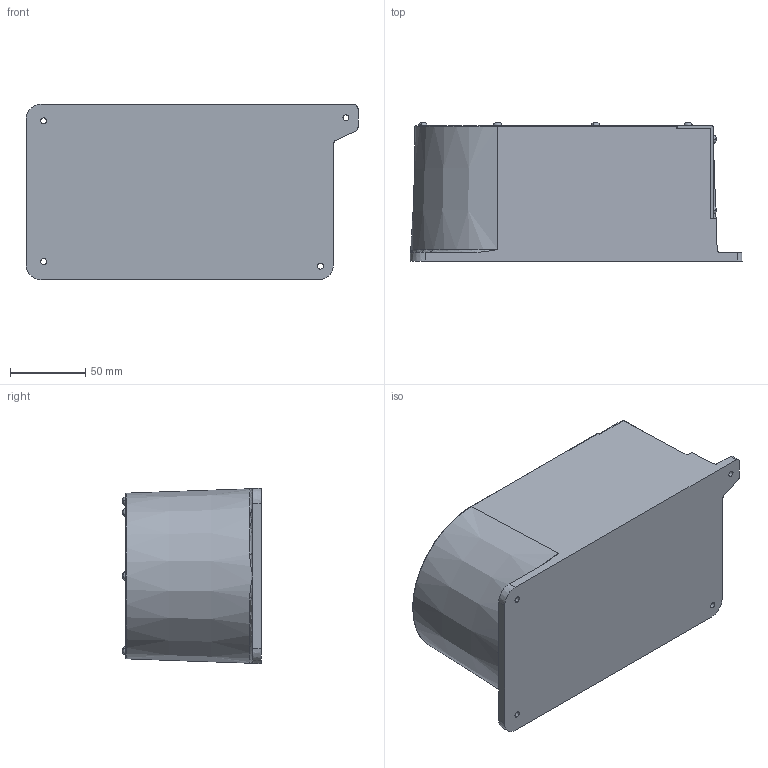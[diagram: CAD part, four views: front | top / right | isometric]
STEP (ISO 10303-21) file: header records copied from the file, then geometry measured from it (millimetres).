
FILE_DESCRIPTION (( 'STEP AP214' ), '1' );
FILE_NAME ('DL-07_Assem0.STEP', '2024-06-21T00:02:52', ( '' ), ( '' ), 'SwSTEP 2.0', 'SolidWorks 2023', '' );
FILE_SCHEMA (( 'AUTOMOTIVE_DESIGN' ));
Length unit declared in the file: millimetre
Products named in the file (4): DL-07_Assem0; DL-07_Part1; SCREW M3 X6 MM; DL-07_Part2
Assembly tree (11 placements, depth 2):
  DL-07_Assem0
    DL-07_Part1
    DL-07_Part2
    SCREW M3 X6 MM  x9
Bounding box: 220.75 x 92 x 116.5 mm (x, y, z)
Volume: 1724697.9 mm3; surface area: 106755 mm2
Topology: 11 solids, 11 shells, 335 faces, 966 edges, 671 vertices
Faces by surface type: plane 144, cylinder 74, bspline 46, cone 46, torus 25
Entity records: 7067 total; most frequent: CARTESIAN_POINT 3200, DIRECTION 798, ORIENTED_EDGE 774, EDGE_CURVE 387, AXIS2_PLACEMENT_3D 311, VERTEX_POINT 255, EDGE_LOOP 180, LINE 176
